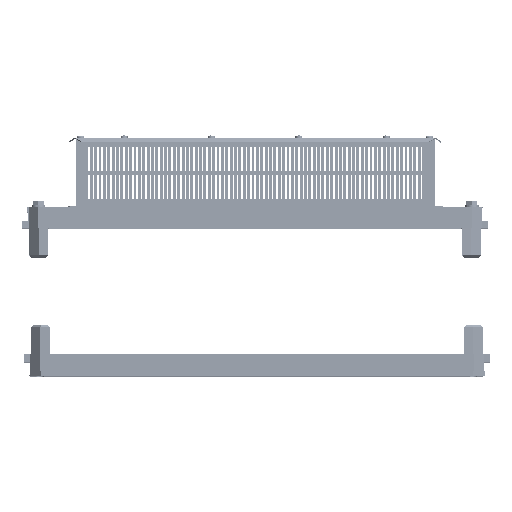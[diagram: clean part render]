
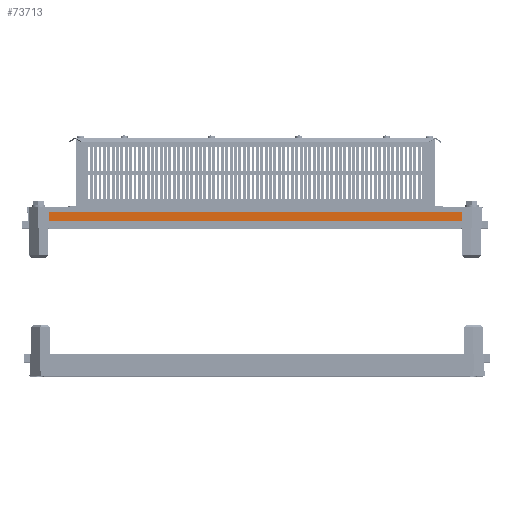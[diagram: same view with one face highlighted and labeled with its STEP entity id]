
A CAD part, top view. The second image highlights one B-rep face of the part: STEP entity #73713.
In plain terms, the highlighted planar face has unit normal (0, 0, 1).
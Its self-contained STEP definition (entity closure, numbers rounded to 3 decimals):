
#1694 = CARTESIAN_POINT ( 'NONE',  ( -754., -141.8, -10.5 ) ) ;
#8893 = CARTESIAN_POINT ( 'NONE',  ( -754., -140.5, -10.5 ) ) ;
#23565 = EDGE_LOOP ( 'NONE', ( #50411, #35276, #93358, #99553 ) ) ;
#35276 = ORIENTED_EDGE ( 'NONE', *, *, #121480, .F. ) ;
#44314 = DIRECTION ( 'NONE',  ( 0., 1., 0. ) ) ;
#50411 = ORIENTED_EDGE ( 'NONE', *, *, #243804, .T. ) ;
#55349 = VERTEX_POINT ( 'NONE', #200091 ) ;
#55465 = AXIS2_PLACEMENT_3D ( 'NONE', #8893, #75640, #116381 ) ;
#65992 = VECTOR ( 'NONE', #66973, 1000. ) ;
#66973 = DIRECTION ( 'NONE',  ( -1., 0., 0. ) ) ;
#72305 = VERTEX_POINT ( 'NONE', #183571 ) ;
#73010 = VERTEX_POINT ( 'NONE', #95288 ) ;
#73713 = ADVANCED_FACE ( 'NONE', ( #119243 ), #207952, .F. ) ;
#75640 = DIRECTION ( 'NONE',  ( 0., 0., -1. ) ) ;
#85011 = CARTESIAN_POINT ( 'NONE',  ( -754., -140.5, -10.5 ) ) ;
#93358 = ORIENTED_EDGE ( 'NONE', *, *, #141410, .F. ) ;
#95288 = CARTESIAN_POINT ( 'NONE',  ( -46., -141.8, -10.5 ) ) ;
#98739 = VECTOR ( 'NONE', #129233, 1000. ) ;
#99553 = ORIENTED_EDGE ( 'NONE', *, *, #212906, .F. ) ;
#116381 = DIRECTION ( 'NONE',  ( 0., -1., 0. ) ) ;
#119243 = FACE_OUTER_BOUND ( 'NONE', #23565, .T. ) ;
#121480 = EDGE_CURVE ( 'NONE', #147187, #55349, #191825, .T. ) ;
#129233 = DIRECTION ( 'NONE',  ( 1., 0., 0. ) ) ;
#141410 = EDGE_CURVE ( 'NONE', #72305, #147187, #217290, .T. ) ;
#147187 = VERTEX_POINT ( 'NONE', #279054 ) ;
#148992 = DIRECTION ( 'NONE',  ( 0., 1., 0. ) ) ;
#151728 = VECTOR ( 'NONE', #44314, 1000. ) ;
#173756 = LINE ( 'NONE', #223069, #151728 ) ;
#183571 = CARTESIAN_POINT ( 'NONE',  ( -754., -141.8, -10.5 ) ) ;
#191825 = LINE ( 'NONE', #258668, #98739 ) ;
#200091 = CARTESIAN_POINT ( 'NONE',  ( -46., -119.3, -10.5 ) ) ;
#207952 = PLANE ( 'NONE',  #55465 ) ;
#212906 = EDGE_CURVE ( 'NONE', #73010, #72305, #266136, .T. ) ;
#217290 = LINE ( 'NONE', #85011, #237966 ) ;
#223069 = CARTESIAN_POINT ( 'NONE',  ( -46., -140.5, -10.5 ) ) ;
#237966 = VECTOR ( 'NONE', #148992, 1000. ) ;
#243804 = EDGE_CURVE ( 'NONE', #73010, #55349, #173756, .T. ) ;
#258668 = CARTESIAN_POINT ( 'NONE',  ( -754., -119.3, -10.5 ) ) ;
#266136 = LINE ( 'NONE', #1694, #65992 ) ;
#279054 = CARTESIAN_POINT ( 'NONE',  ( -754., -119.3, -10.5 ) ) ;
